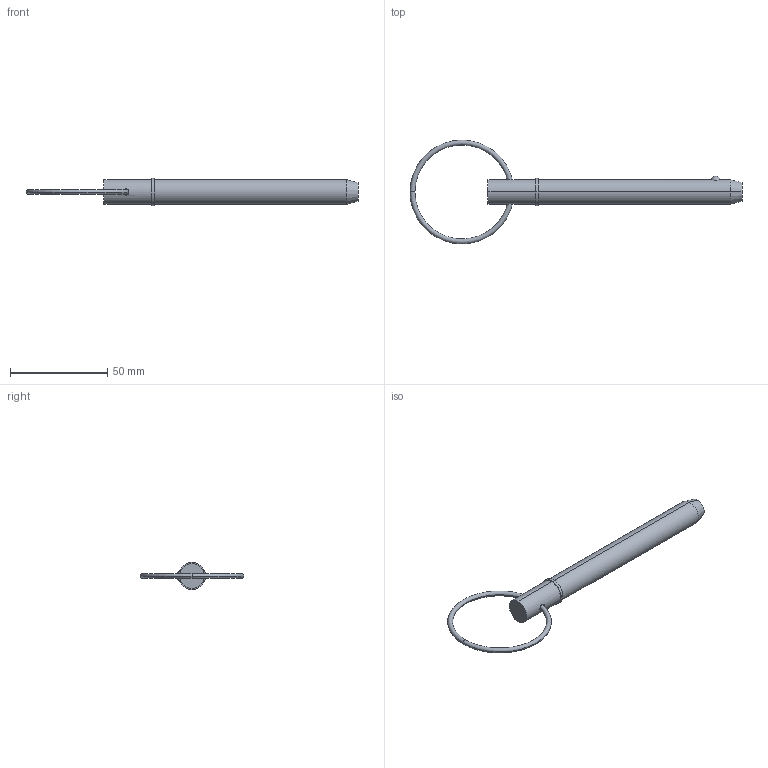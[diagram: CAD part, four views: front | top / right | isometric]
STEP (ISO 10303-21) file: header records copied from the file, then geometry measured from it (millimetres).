
FILE_DESCRIPTION (( 'STEP AP203' ), '1' );
FILE_NAME ('33014.W5035.step', '2024-11-04T08:30:21', ( '' ), ( '' ), 'SwSTEP 2.0', 'SolidWorks 2019', '' );
FILE_SCHEMA (( 'CONFIG_CONTROL_DESIGN' ));
Length unit declared in the file: millimetre
Products named in the file (3): 33014.W5035; Part2_33014.W5035; Part1_33014.W5035
Assembly tree (2 placements, depth 2):
  33014.W5035
    Part1_33014.W5035
    Part2_33014.W5035
Bounding box: 170.53 x 53.34 x 13.97 mm (x, y, z)
Volume: 17118.6 mm3; surface area: 6835.3 mm2
Topology: 2 solids, 2 shells, 22 faces, 43 edges, 26 vertices
Faces by surface type: torus 8, cylinder 6, plane 4, sphere 2, cone 2
Entity records: 1039 total; most frequent: CARTESIAN_POINT 262, DIRECTION 120, ORIENTED_EDGE 86, AXIS2_PLACEMENT_3D 56, EDGE_CURVE 43, CIRCLE 29, EDGE_LOOP 27, VERTEX_POINT 26
